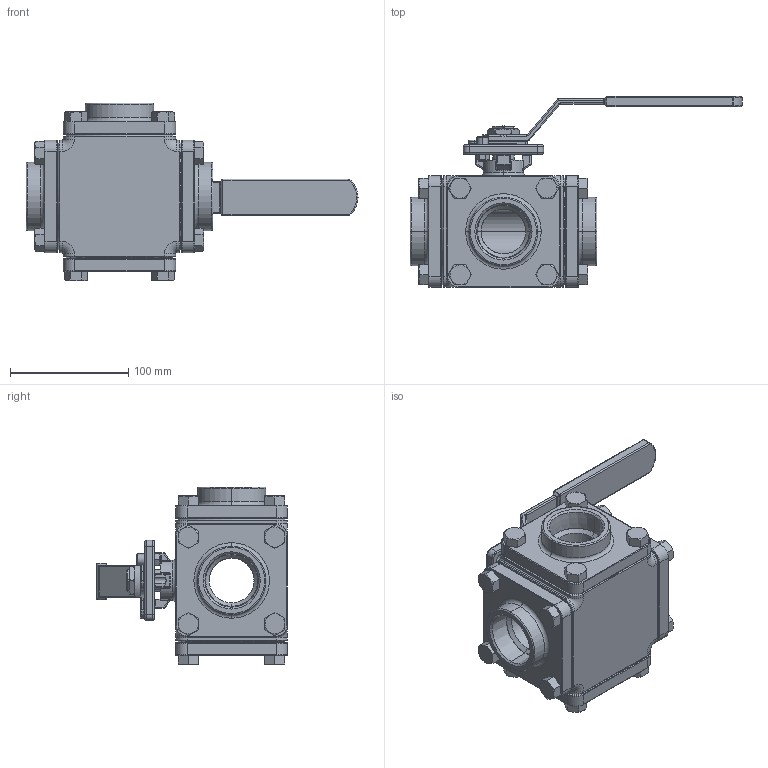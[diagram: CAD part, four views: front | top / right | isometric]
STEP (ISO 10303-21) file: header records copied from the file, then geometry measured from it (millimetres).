
FILE_DESCRIPTION (( 'STEP AP214' ), '1' );
FILE_NAME ('501T-1.5¦T.STEP', '2013-11-13T01:25:18', ( 'zipson' ), ( 'zipson' ), 'SwSTEP 2.0', 'SolidWorks 2008', '' );
FILE_SCHEMA (( 'AUTOMOTIVE_DESIGN' ));
Length unit declared in the file: millimetre
Products named in the file (1): 501T-1.5吋
Bounding box: 281.1 x 161.65 x 150.7 mm (x, y, z)
Volume: 1366064.9 mm3; surface area: 165617.9 mm2
Topology: 1 solids, 2 shells, 785 faces, 1916 edges, 1144 vertices
Faces by surface type: plane 258, cylinder 254, cone 121, torus 111, sphere 23, bspline 18
Entity records: 24501 total; most frequent: CARTESIAN_POINT 6161, DIRECTION 3957, ORIENTED_EDGE 3802, EDGE_CURVE 1901, AXIS2_PLACEMENT_3D 1558, VERTEX_POINT 1144, EDGE_LOOP 847, VECTOR 841
